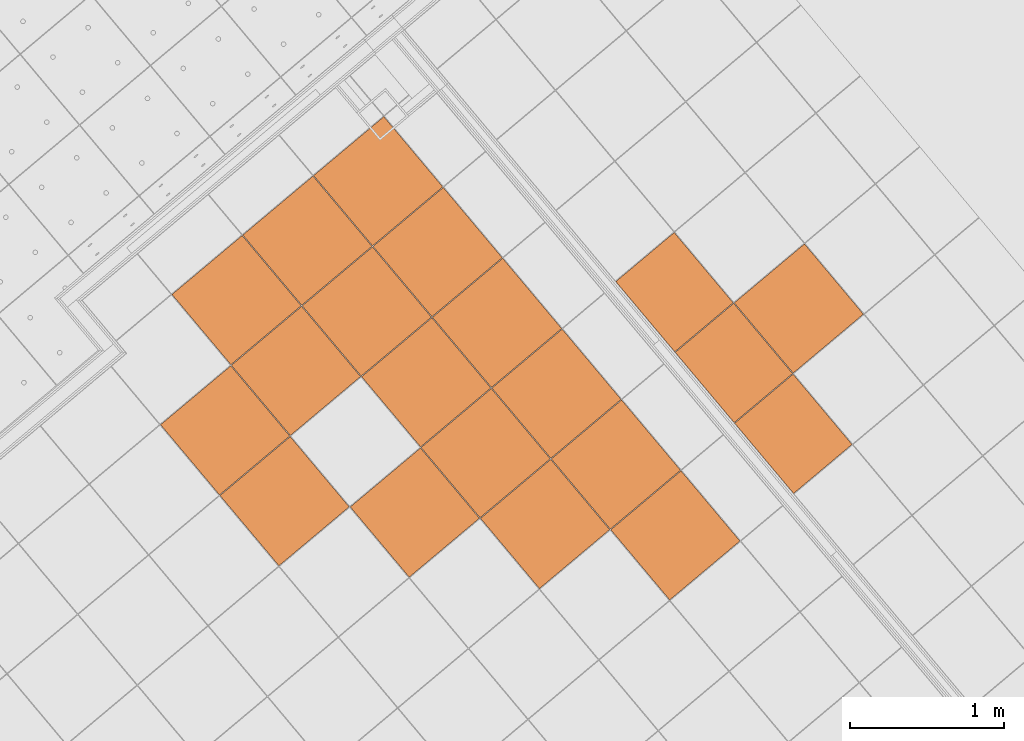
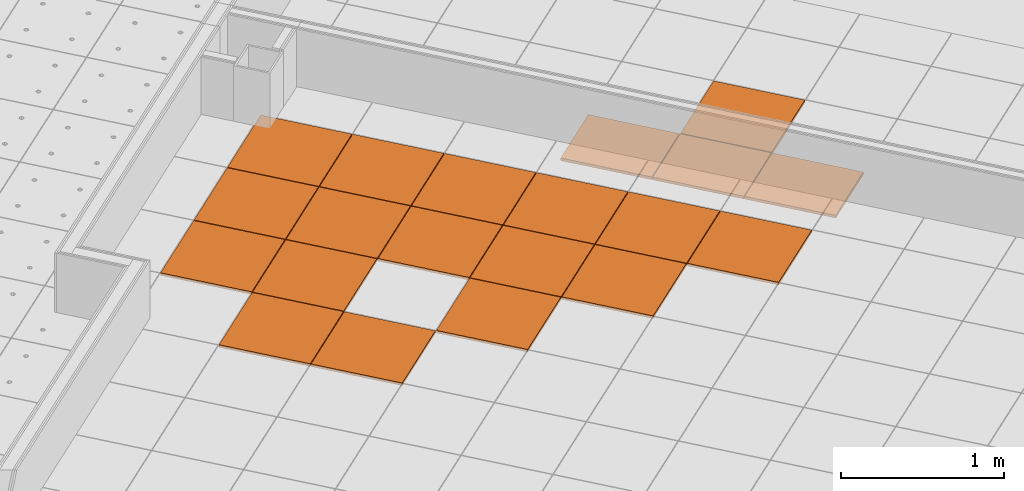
# One storey, part 168 of 338: 20 proxies, 2 elements without a shape of their own.
"""IFC2X3 building model written with IfcOpenShell, lengths in millimetres."""

from ifc_helpers import new_model, entity, si_unit, converted_unit, derived_unit, money_unit, direction, frame, origin_with_axes, place, context, subcontext, project, spatial, faceted_brep, source, transform, mapped, material, type_object, type_shapes, element, aggregate, save


model = new_model("IFC2X3")

# Units and contexts
model_context = context("Model", 3, precision=0.01, world=origin_with_axes(), true_north=direction((0.0, 1.0)))
plan_context = context("Plan", 3, precision=0.01, world=origin_with_axes(), true_north=direction((0.0, 1.0)))
body_context = subcontext(model_context, "Body", "Model", "MODEL_VIEW")
ifc_project = project(units=[si_unit("LENGTHUNIT", "METRE", prefix="MILLI"), si_unit("AREAUNIT", "SQUARE_METRE"), si_unit("VOLUMEUNIT", "CUBIC_METRE"), converted_unit("PLANEANGLEUNIT", "DEGREE", entity("IfcPlaneAngleMeasure", 0.0174532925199), si_unit("PLANEANGLEUNIT", "RADIAN"), dimensions=[0, 0, 0, 0, 0, 0, 0]), money_unit("EUR"), converted_unit("TIMEUNIT", "Year", entity("IfcTimeMeasure", 31556926.0), si_unit("TIMEUNIT", "SECOND"), dimensions=[0, 0, 1, 0, 0, 0, 0]), si_unit("MASSUNIT", "GRAM", prefix="KILO"), si_unit("THERMODYNAMICTEMPERATUREUNIT", "DEGREE_CELSIUS"), si_unit("LUMINOUSINTENSITYUNIT", "LUMEN"), si_unit("ENERGYUNIT", "JOULE", prefix="MEGA"), derived_unit("THERMALCONDUCTANCEUNIT", [(si_unit("POWERUNIT", "WATT"), 1), (si_unit("LENGTHUNIT", "METRE"), -1), (si_unit("THERMODYNAMICTEMPERATUREUNIT", "KELVIN"), -1)]), derived_unit("SPECIFICHEATCAPACITYUNIT", [(si_unit("ENERGYUNIT", "JOULE"), 1), (si_unit("MASSUNIT", "GRAM", prefix="KILO"), -1), (si_unit("THERMODYNAMICTEMPERATUREUNIT", "KELVIN"), -1)]), derived_unit("MASSDENSITYUNIT", [(si_unit("MASSUNIT", "GRAM", prefix="KILO"), 1), (si_unit("VOLUMEUNIT", "CUBIC_METRE"), -1)])], contexts=[model_context, plan_context])

# Site, building, storey
site_placement = place(None, origin_with_axes())
site = spatial("IfcSite", under=ifc_project, at=site_placement, Name="Fortuinstraat Woensdrecht", CompositionType="ELEMENT")
building_placement = place(site_placement, origin_with_axes())
building = spatial("IfcBuilding", under=site, at=building_placement, Name="IKC Fortuna", CompositionType="ELEMENT")
storey_placement = place(building_placement, origin_with_axes())
storey = spatial("IfcBuildingStorey", under=building, at=storey_placement, Name="00 begane grond", CompositionType="ELEMENT", Elevation=0.0)

# Covering, proxies
covering_type = type_object("IfcCoveringType", Name="Curtain Wall Type", PredefinedType="CEILING")
covering_1_placement = place(storey_placement, frame((17937.1227498, -4186.27868692, 4660.0), z_axis=(0.0, 0.0, 1.0), x_axis=(1.0, 0.0, 0.0)))
covering_1 = element("IfcCovering", 1, at=covering_1_placement, inside=storey, type_object=covering_type, Name="45_Plafondafwerking_P02", PredefinedType="CEILING")
ifc_material = material(Name="Gipsplaat")
building_element_proxy_type_1 = type_object("IfcBuildingElementProxyType", Name="Distinct Panel 600 x 600 x 20", PredefinedType="NOTDEFINED")
shared_shape_1 = source(origin_with_axes(), body_context, "Body", "Brep", [
    faceted_brep([(2.49999999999, 2.5, -10.0), (597.5, 2.49999999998, -10.0), (597.5, 2.49999999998, 10.0), (2.49999999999, 2.5, 10.0), (2.50000000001, 597.5, -10.0), (597.5, 597.5, -10.0), (597.5, 597.5, 10.0), (2.50000000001, 597.5, 10.0)], [[[0, 1, 2, 3]], [[0, 4, 5, 1]], [[1, 5, 6, 2]], [[3, 2, 6, 7]], [[4, 0, 3, 7]], [[5, 4, 7, 6]]]),
])
proxy_1_placement = place(covering_1_placement, frame((-4152.32189693, 4948.54198706, 0.0), z_axis=(0.0, 0.0, 1.0), x_axis=(1.0, 0.0, 0.0)))
proxy_1 = element("IfcBuildingElementProxy", 2, at=proxy_1_placement, type_object=building_element_proxy_type_1, material=ifc_material, Name="__Panel-D", context=body_context, shape_type="MappedRepresentation", body=[
    mapped(shared_shape_1, transform((36.9769427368, 422.649625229, 0.0), x_axis=(-0.766044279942, -0.642787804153, 0.0), y_axis=(0.642787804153, -0.766044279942, 0.0), z_axis=(0.0, 0.0, 1.0))),
])
proxy_2_placement = place(covering_1_placement, frame((-4611.94846489, 4562.86930457, 0.0), z_axis=(0.0, 0.0, 1.0), x_axis=(1.0, 0.0, 0.0)))
proxy_2 = element("IfcBuildingElementProxy", 3, at=proxy_2_placement, type_object=building_element_proxy_type_1, material=ifc_material, Name="__Panel-D", context=body_context, shape_type="MappedRepresentation", body=[
    mapped(shared_shape_1, transform((36.9769427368, 422.649625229, 0.0), x_axis=(-0.766044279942, -0.642787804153, 0.0), y_axis=(0.642787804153, -0.766044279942, 0.0), z_axis=(0.0, 0.0, 1.0))),
])
proxy_3_placement = place(covering_1_placement, frame((-4226.2757824, 4103.2427366, 0.0), z_axis=(0.0, 0.0, 1.0), x_axis=(1.0, 0.0, 0.0)))
proxy_3 = element("IfcBuildingElementProxy", 4, at=proxy_3_placement, type_object=building_element_proxy_type_1, material=ifc_material, Name="__Panel-D", context=body_context, shape_type="MappedRepresentation", body=[
    mapped(shared_shape_1, transform((36.9769427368, 422.649625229, 0.0), x_axis=(-0.766044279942, -0.642787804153, 0.0), y_axis=(0.642787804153, -0.766044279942, 0.0), z_axis=(0.0, 0.0, 1.0))),
])
proxy_4_placement = place(covering_1_placement, frame((-3380.97653194, 4029.28885113, 0.0), z_axis=(0.0, 0.0, 1.0), x_axis=(1.0, 0.0, 0.0)))
proxy_4 = element("IfcBuildingElementProxy", 5, at=proxy_4_placement, type_object=building_element_proxy_type_1, material=ifc_material, Name="__Panel-D", context=body_context, shape_type="MappedRepresentation", body=[
    mapped(shared_shape_1, transform((36.9769427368, 422.649625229, 0.0), x_axis=(-0.766044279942, -0.642787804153, 0.0), y_axis=(0.642787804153, -0.766044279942, 0.0), z_axis=(0.0, 0.0, 1.0))),
])
proxy_5_placement = place(covering_1_placement, frame((-2535.67728149, 3955.33496565, 0.0), z_axis=(0.0, 0.0, 1.0), x_axis=(1.0, 0.0, 0.0)))
proxy_5 = element("IfcBuildingElementProxy", 6, at=proxy_5_placement, type_object=building_element_proxy_type_1, material=ifc_material, Name="__Panel-D", context=body_context, shape_type="MappedRepresentation", body=[
    mapped(shared_shape_1, transform((36.9769427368, 422.649625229, 0.0), x_axis=(-0.766044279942, -0.642787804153, 0.0), y_axis=(0.642787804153, -0.766044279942, 0.0), z_axis=(0.0, 0.0, 1.0))),
])
proxy_6_placement = place(covering_1_placement, frame((-2461.72339601, 4800.63421611, 0.0), z_axis=(0.0, 0.0, 1.0), x_axis=(1.0, 0.0, 0.0)))
proxy_6 = element("IfcBuildingElementProxy", 7, at=proxy_6_placement, type_object=building_element_proxy_type_1, material=ifc_material, Name="__Panel-D", context=body_context, shape_type="MappedRepresentation", body=[
    mapped(shared_shape_1, transform((36.9769427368, 422.649625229, 0.0), x_axis=(-0.766044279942, -0.642787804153, 0.0), y_axis=(0.642787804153, -0.766044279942, 0.0), z_axis=(0.0, 0.0, 1.0))),
])
proxy_7_placement = place(covering_1_placement, frame((-3233.068761, 5719.88735204, 0.0), z_axis=(0.0, 0.0, 1.0), x_axis=(1.0, 0.0, 0.0)))
proxy_7 = element("IfcBuildingElementProxy", 8, at=proxy_7_placement, type_object=building_element_proxy_type_1, material=ifc_material, Name="__Panel-D", context=body_context, shape_type="MappedRepresentation", body=[
    mapped(shared_shape_1, transform((36.9769427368, 422.649625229, 0.0), x_axis=(-0.766044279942, -0.642787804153, 0.0), y_axis=(0.642787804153, -0.766044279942, 0.0), z_axis=(0.0, 0.0, 1.0))),
])
proxy_8_placement = place(covering_1_placement, frame((-1690.37803103, 3881.38108018, 0.0), z_axis=(0.0, 0.0, 1.0), x_axis=(1.0, 0.0, 0.0)))
proxy_8 = element("IfcBuildingElementProxy", 9, at=proxy_8_placement, type_object=building_element_proxy_type_1, material=ifc_material, Name="__Panel-D", context=body_context, shape_type="MappedRepresentation", body=[
    mapped(shared_shape_1, transform((36.9769427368, 422.649625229, 0.0), x_axis=(-0.766044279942, -0.642787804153, 0.0), y_axis=(0.642787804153, -0.766044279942, 0.0), z_axis=(0.0, 0.0, 1.0))),
])
proxy_9_placement = place(covering_1_placement, frame((-2076.05071352, 4341.00764814, 0.0), z_axis=(0.0, 0.0, 1.0), x_axis=(1.0, 0.0, 0.0)))
proxy_9 = element("IfcBuildingElementProxy", 10, at=proxy_9_placement, type_object=building_element_proxy_type_1, material=ifc_material, Name="__Panel-D", context=body_context, shape_type="MappedRepresentation", body=[
    mapped(shared_shape_1, transform((36.9769427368, 422.649625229, 0.0), x_axis=(-0.766044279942, -0.642787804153, 0.0), y_axis=(0.642787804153, -0.766044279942, 0.0), z_axis=(0.0, 0.0, 1.0))),
])
proxy_10_placement = place(covering_1_placement, frame((-2847.3960785, 5260.26078408, 0.0), z_axis=(0.0, 0.0, 1.0), x_axis=(1.0, 0.0, 0.0)))
proxy_10 = element("IfcBuildingElementProxy", 11, at=proxy_10_placement, type_object=building_element_proxy_type_1, material=ifc_material, Name="__Panel-D", context=body_context, shape_type="MappedRepresentation", body=[
    mapped(shared_shape_1, transform((36.9769427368, 422.649625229, 0.0), x_axis=(-0.766044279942, -0.642787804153, 0.0), y_axis=(0.642787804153, -0.766044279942, 0.0), z_axis=(0.0, 0.0, 1.0))),
])
shared_shape_2 = source(origin_with_axes(), body_context, "Body", "Brep", [
    faceted_brep([(2.5000069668, 2.4999963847, -10.0), (597.499995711, 2.50000275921, -10.0), (597.499995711, 2.50000275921, 10.0), (2.5000069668, 2.4999963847, 10.0), (2.50000214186, 597.499967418, -10.0), (597.499990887, 597.499973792, -10.0), (597.499990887, 597.499973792, 10.0), (2.50000214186, 597.499967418, 10.0)], [[[0, 1, 2, 3]], [[0, 4, 5, 1]], [[1, 5, 6, 2]], [[3, 2, 6, 7]], [[4, 0, 3, 7]], [[5, 4, 7, 6]]]),
])
proxy_11_placement = place(covering_1_placement, frame((-4078.36801145, 5793.84123751, 0.0), z_axis=(0.0, 0.0, 1.0), x_axis=(1.0, 0.0, 0.0)))
proxy_11 = element("IfcBuildingElementProxy", 12, at=proxy_11_placement, type_object=building_element_proxy_type_1, material=ifc_material, Name="__Panel-D", context=body_context, shape_type="MappedRepresentation", body=[
    mapped(shared_shape_2, transform((36.9769427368, 422.649625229, 0.0), x_axis=(-0.766044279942, -0.642787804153, 0.0), y_axis=(0.642787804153, -0.766044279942, 0.0), z_axis=(0.0, 0.0, 1.0))),
])
proxy_12_placement = place(covering_1_placement, frame((-3307.02264647, 4874.58810158, 0.0), z_axis=(0.0, 0.0, 1.0), x_axis=(1.0, 0.0, 0.0)))
proxy_12 = element("IfcBuildingElementProxy", 13, at=proxy_12_placement, type_object=building_element_proxy_type_1, material=ifc_material, Name="__Panel-D", context=body_context, shape_type="MappedRepresentation", body=[
    mapped(shared_shape_2, transform((36.9769427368, 422.649625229, 0.0), x_axis=(-0.766044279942, -0.642787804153, 0.0), y_axis=(0.642787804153, -0.766044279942, 0.0), z_axis=(0.0, 0.0, 1.0))),
])
proxy_13_placement = place(covering_1_placement, frame((-3692.69532896, 5334.21466955, 0.0), z_axis=(0.0, 0.0, 1.0), x_axis=(1.0, 0.0, 0.0)))
proxy_13 = element("IfcBuildingElementProxy", 14, at=proxy_13_placement, type_object=building_element_proxy_type_1, material=ifc_material, Name="__Panel-D", context=body_context, shape_type="MappedRepresentation", body=[
    mapped(shared_shape_2, transform((36.9769427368, 422.649625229, 0.0), x_axis=(-0.766044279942, -0.642787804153, 0.0), y_axis=(0.642787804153, -0.766044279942, 0.0), z_axis=(0.0, 0.0, 1.0))),
])
shared_shape_3 = source(origin_with_axes(), body_context, "Body", "Brep", [
    faceted_brep([(2.50000185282, 2.50000514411, -10.0), (597.499994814, 2.50000188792, -10.0), (597.499994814, 2.50000188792, 10.0), (2.50000185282, 2.50000514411, 10.0), (2.50000510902, 597.499998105, -10.0), (597.49998844, 597.50000293, -10.0), (597.49998844, 597.50000293, 10.0), (2.50000510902, 597.499998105, 10.0)], [[[0, 1, 2, 3]], [[0, 4, 5, 1]], [[1, 5, 6, 2]], [[3, 2, 6, 7]], [[4, 0, 3, 7]], [[5, 4, 7, 6]]]),
])
proxy_14_placement = place(covering_1_placement, frame((-4537.99457942, 5408.16855502, 0.0), z_axis=(0.0, 0.0, 1.0), x_axis=(1.0, 0.0, 0.0)))
proxy_14 = element("IfcBuildingElementProxy", 15, at=proxy_14_placement, type_object=building_element_proxy_type_1, material=ifc_material, Name="__Panel-D", context=body_context, shape_type="MappedRepresentation", body=[
    mapped(shared_shape_3, transform((36.9769427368, 422.649625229, 0.0), x_axis=(-0.766044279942, -0.642787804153, 0.0), y_axis=(0.642787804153, -0.766044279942, 0.0), z_axis=(0.0, 0.0, 1.0))),
])
shared_shape_4 = source(origin_with_axes(), body_context, "Body", "Brep", [
    faceted_brep([(2.50000188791, 2.50000518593, -10.0), (597.499994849, 2.50000192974, -10.0), (597.499994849, 2.50000192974, 10.0), (2.50000188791, 2.50000518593, 10.0), (2.50000514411, 597.499998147, -10.0), (597.499998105, 597.499994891, -10.0), (597.499998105, 597.499994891, 10.0), (2.50000514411, 597.499998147, 10.0)], [[[0, 1, 2, 3]], [[0, 4, 5, 1]], [[1, 5, 6, 2]], [[3, 2, 6, 7]], [[4, 0, 3, 7]], [[5, 4, 7, 6]]]),
])
proxy_15_placement = place(covering_1_placement, frame((-3618.74144349, 6179.51392001, 0.0), z_axis=(0.0, 0.0, 1.0), x_axis=(1.0, 0.0, 0.0)))
proxy_15 = element("IfcBuildingElementProxy", 16, at=proxy_15_placement, type_object=building_element_proxy_type_1, material=ifc_material, Name="__Panel-D", context=body_context, shape_type="MappedRepresentation", body=[
    mapped(shared_shape_4, transform((36.9769427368, 422.649625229, 0.0), x_axis=(-0.766044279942, -0.642787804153, 0.0), y_axis=(0.642787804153, -0.766044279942, 0.0), z_axis=(0.0, 0.0, 1.0))),
])
proxy_16_placement = place(covering_1_placement, frame((-2921.34996398, 4414.96153362, 0.0), z_axis=(0.0, 0.0, 1.0), x_axis=(1.0, 0.0, 0.0)))
proxy_16 = element("IfcBuildingElementProxy", 17, at=proxy_16_placement, type_object=building_element_proxy_type_1, material=ifc_material, Name="__Panel-D", context=body_context, shape_type="MappedRepresentation", body=[
    mapped(shared_shape_4, transform((36.9769427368, 422.649625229, 0.0), x_axis=(-0.766044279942, -0.642787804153, 0.0), y_axis=(0.642787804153, -0.766044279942, 0.0), z_axis=(0.0, 0.0, 1.0))),
])
aggregate(covering_1, [proxy_11, proxy_12, proxy_1, proxy_2, proxy_3, proxy_14, proxy_4, proxy_15, proxy_13, proxy_5, proxy_6, proxy_7, proxy_16, proxy_8, proxy_9, proxy_10])

covering_2_placement = place(storey_placement, frame((19821.8074512, -1204.73183435, 4460.0), z_axis=(0.0, 0.0, 1.0), x_axis=(1.0, 0.0, 0.0)))
covering_2 = element("IfcCovering", 18, at=covering_2_placement, inside=storey, type_object=covering_type, Name="45_Plafondafwerking_P04", PredefinedType="CEILING")
shared_shape_5 = source(origin_with_axes(), body_context, "Body", "Brep", [
    faceted_brep([(-597.500003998, 2.50001005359, -10.0), (-597.500003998, 2.50001005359, 10.0), (-597.499997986, 597.499994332, 10.0), (-597.499997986, 597.499994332, -10.0), (-2.50001008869, 2.4999959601, -10.0), (-2.50001008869, 2.4999959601, 10.0), (-2.50000562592, 597.499997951, 10.0), (-2.50000562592, 597.499997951, -10.0)], [[[0, 1, 2, 3]], [[4, 5, 1, 0]], [[1, 5, 6, 2]], [[3, 2, 6, 7]], [[0, 3, 7, 4]], [[7, 6, 5, 4]]]),
])
type_shapes(building_element_proxy_type_1, [shared_shape_1, shared_shape_2, shared_shape_3, shared_shape_4, shared_shape_5])
proxy_17_placement = place(covering_2_placement, frame((-2773.66242367, 2372.08700504, 0.0), z_axis=(0.0, 0.0, 1.0), x_axis=(1.0, 0.0, 0.0)))
proxy_17 = element("IfcBuildingElementProxy", 19, at=proxy_17_placement, type_object=building_element_proxy_type_1, material=ifc_material, Name="__Panel-D", context=body_context, shape_type="MappedRepresentation", body=[
    mapped(shared_shape_5, transform((-422.649621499, 36.9769853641, 0.0), x_axis=(-0.766044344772, -0.642787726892, 0.0), y_axis=(0.642787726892, -0.766044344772, 0.0), z_axis=(0.0, 0.0, 1.0))),
])
building_element_proxy_type_2 = type_object("IfcBuildingElementProxyType", Name="Distinct Panel 500 x 600 x 20", PredefinedType="NOTDEFINED")
shared_shape_6 = source(origin_with_axes(), body_context, "Body", "Brep", [
    faceted_brep([(-597.499996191, 2.4999898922, -10.0), (-597.499996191, 2.4999898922, 10.0), (-597.500006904, 597.500000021, 10.0), (-597.500006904, 597.500000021, -10.0), (-102.501953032, 2.49998751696, -10.0), (-102.501953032, 2.49998751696, 10.0), (-102.501963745, 597.499997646, 10.0), (-102.501963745, 597.499997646, -10.0)], [[[0, 1, 2, 3]], [[4, 5, 1, 0]], [[1, 5, 6, 2]], [[3, 2, 6, 7]], [[0, 3, 7, 4]], [[7, 6, 5, 4]]]),
])
type_shapes(building_element_proxy_type_2, [shared_shape_6])
proxy_18_placement = place(covering_2_placement, frame((-3194.98606383, 2018.55438414, 0.0), z_axis=(0.0, 0.0, 1.0), x_axis=(1.0, 0.0, 0.0)))
proxy_18 = element("IfcBuildingElementProxy", 20, at=proxy_18_placement, type_object=building_element_proxy_type_2, material=ifc_material, Name="__Panel-D", context=body_context, shape_type="MappedRepresentation", body=[
    mapped(shared_shape_6, transform((-460.95258821, 4.83697013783, 0.0), x_axis=(-0.766044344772, -0.642787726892, 0.0), y_axis=(0.642787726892, -0.766044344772, 0.0), z_axis=(0.0, 0.0, 1.0))),
])
proxy_19_placement = place(covering_2_placement, frame((-2809.31342769, 1558.92777727, 0.0), z_axis=(0.0, 0.0, 1.0), x_axis=(1.0, 0.0, 0.0)))
proxy_19 = element("IfcBuildingElementProxy", 21, at=proxy_19_placement, type_object=building_element_proxy_type_2, material=ifc_material, Name="__Panel-D", context=body_context, shape_type="MappedRepresentation", body=[
    mapped(shared_shape_6, transform((-460.95258821, 4.83697013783, 0.0), x_axis=(-0.766044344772, -0.642787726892, 0.0), y_axis=(0.642787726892, -0.766044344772, 0.0), z_axis=(0.0, 0.0, 1.0))),
])
proxy_20_placement = place(covering_2_placement, frame((-3580.65869996, 2478.180991, 0.0), z_axis=(0.0, 0.0, 1.0), x_axis=(1.0, 0.0, 0.0)))
proxy_20 = element("IfcBuildingElementProxy", 22, at=proxy_20_placement, type_object=building_element_proxy_type_2, material=ifc_material, Name="__Panel-D", context=body_context, shape_type="MappedRepresentation", body=[
    mapped(shared_shape_6, transform((-460.95258821, 4.83697013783, 0.0), x_axis=(-0.766044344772, -0.642787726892, 0.0), y_axis=(0.642787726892, -0.766044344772, 0.0), z_axis=(0.0, 0.0, 1.0))),
])
aggregate(covering_2, [proxy_18, proxy_17, proxy_19, proxy_20])

save(model, "model.ifc")
